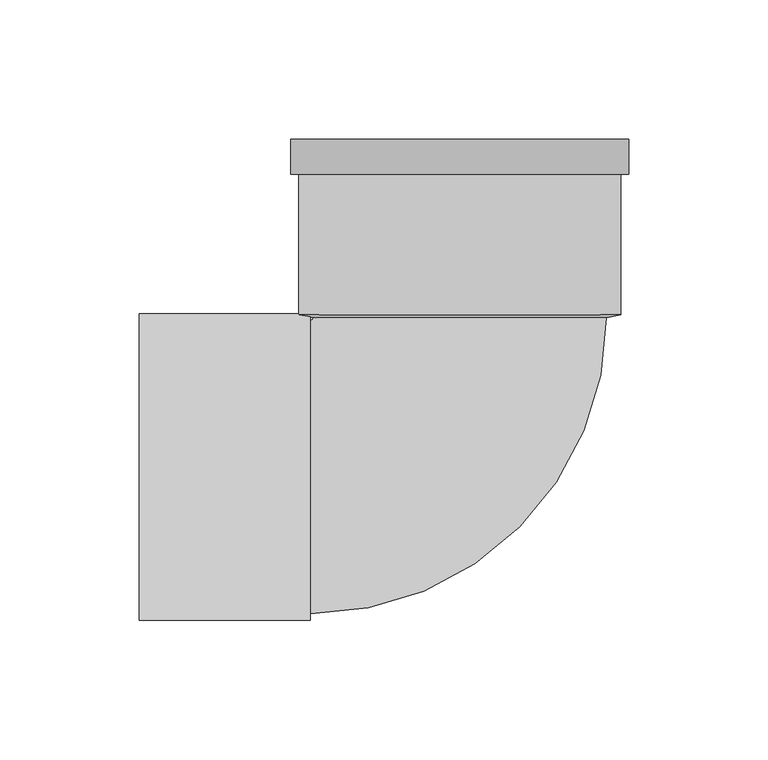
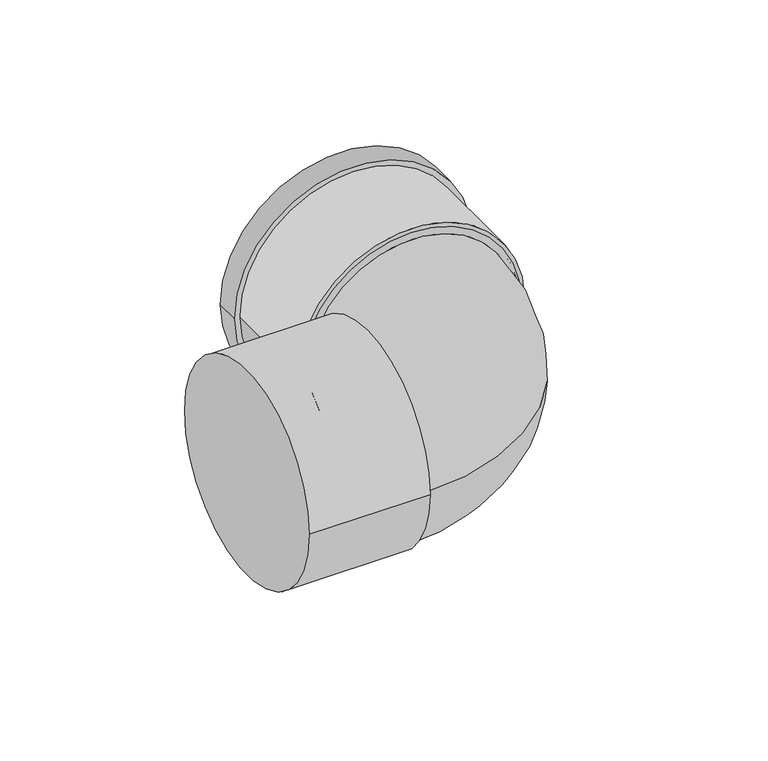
"""IFC4 building model written with IfcOpenShell, lengths in millimetres: pipe fitting geometry, Superdrain HT bend : Superdrain HT Bend."""

from ifc_helpers import new_model, si_unit, point, frame, origin, origin_2d, place, context, project, spatial, polyline, circle_curve, ellipse_curve, trimmed, segment, composite_curve, outline, extrude, source, transform, mapped, element, save
from ifc_brep_helpers import plane_surface, revolved_surface, advanced_brep


def pipe_fitting_0a0cbaeb(model_context):
    return source(origin(), model_context, "Body", "SolidModel", [
        advanced_brep(
        [(52.6, 53.6, 0.0), (-52.6, 53.6, 0.0), (-53.6, -52.6, 0.0), (-53.6, 52.6, 0.0)],
        [
            (0, 1, circle_curve(frame((0.0, 53.6, 0.0), z_axis=(0.0, 1.0, 0.0), x_axis=(-1.0, 0.0, 0.0)), 52.6)),
            (1, 0, circle_curve(frame((0.0, 53.6, 0.0), z_axis=(0.0, 1.0, 0.0), x_axis=(-1.0, 0.0, 0.0)), 52.6)),
            (2, 3, circle_curve(frame((-53.6, 0.0, 0.0), z_axis=(-1.0, 0.0, 0.0), x_axis=(0.0, 1.0, 0.0)), 52.6)),
            (3, 2, circle_curve(frame((-53.6, 0.0, 0.0), z_axis=(-1.0, 0.0, 0.0), x_axis=(0.0, 1.0, 0.0)), 52.6)),
            (3, 1, circle_curve(frame((-53.6, 53.6, 0.0), z_axis=(0.0, 0.0, 1.0), x_axis=(1.0, 0.0, 0.0)), 1.0)),
            (0, 2, circle_curve(frame((-53.6, 53.6, 0.0), z_axis=(0.0, 0.0, -1.0), x_axis=(1.0, 0.0, 0.0)), 106.2)),
        ],
        [
            plane_surface(frame((0.0, 53.6, 0.0), z_axis=(0.0, 1.0, 0.0), x_axis=(0.0, 0.0, -1.0))),
            plane_surface(frame((-53.6, 0.0, 0.0), z_axis=(-1.0, 0.0, 0.0), x_axis=(0.0, 0.0, -1.0))),
            revolved_surface(trimmed(ellipse_curve(frame((0.0, 53.6, 0.0), z_axis=(0.0, -1.0, 0.0), x_axis=(-1.0, 0.0, 0.0)), 52.6, 52.6), [point((-52.6, 53.6, 0.0))], [point((52.6, 53.6, 0.0))], True, "CARTESIAN"), (-53.6, 53.6, 0.0), (0.0, 0.0, 1.0)),
            revolved_surface(trimmed(ellipse_curve(frame((0.0, 53.6, 0.0), z_axis=(0.0, -1.0, 0.0), x_axis=(-1.0, 0.0, 0.0)), 52.6, 52.6), [point((52.6, 53.6, 0.0))], [point((-52.6, 53.6, 0.0))], True, "CARTESIAN"), (-53.6, 53.6, 0.0), (0.0, 0.0, 1.0)),
        ],
        [
            (0, [[1, 2]]),
            (1, [[3, 4]]),
            (2, [[-4, 5, -1, 6]]),
            (3, [[-3, -6, -2, -5]]),
        ],
    ),
        extrude(outline(composite_curve([segment(trimmed(circle_curve(origin_2d(), 57.75), [point((0.0, 57.75))], [point((0.0, -57.75))], False, "CARTESIAN"), True, "CONTINUOUS"), segment(trimmed(circle_curve(origin_2d(), 57.75), [point((0.0, -57.75))], [point((0.0, 57.75))], False, "CARTESIAN"), True, "CONTINUOUS")], self_intersect=False), holes=[composite_curve([segment(trimmed(circle_curve(origin_2d(), 55.0), [point((0.0, 55.0))], [point((0.0, -55.0))], True, "CARTESIAN"), True, "CONTINUOUS"), segment(trimmed(circle_curve(origin_2d(), 55.0), [point((0.0, -55.0))], [point((0.0, 55.0))], True, "CARTESIAN"), True, "CONTINUOUS")], self_intersect=False)]), frame((0.0, 54.6, 0.0), z_axis=(0.0, 1.0, 0.0), x_axis=(0.0, 0.0, 1.0)), (0.0, 0.0, 1.0), 63.0),
        extrude(outline(composite_curve([segment(trimmed(circle_curve(origin_2d(), 60.6375), [point((0.0, -60.6375))], [point((0.0, 60.6375))], False, "CARTESIAN"), True, "CONTINUOUS"), segment(trimmed(circle_curve(origin_2d(), 60.6375), [point((0.0, 60.6375))], [point((0.0, -60.6375))], False, "CARTESIAN"), True, "CONTINUOUS")], self_intersect=False), holes=[composite_curve([segment(trimmed(circle_curve(origin_2d(), 55.0), [point((0.0, -55.0))], [point((0.0, 55.0))], True, "CARTESIAN"), True, "CONTINUOUS"), segment(trimmed(circle_curve(origin_2d(), 55.0), [point((0.0, 55.0))], [point((0.0, -55.0))], True, "CARTESIAN"), True, "CONTINUOUS")], self_intersect=False)]), frame((0.0, 105.0, 0.0), z_axis=(0.0, 1.0, 0.0), x_axis=(0.0, 0.0, 1.0)), (0.0, 0.0, 1.0), 12.6),
        advanced_brep(
        [(57.75, 54.6, 0.0), (-57.75, 54.6, 0.0), (52.6, 53.6, 0.0), (-52.6, 53.6, 0.0)],
        [
            (0, 1, circle_curve(frame((0.0, 54.6, 0.0), z_axis=(0.0, 1.0, 0.0), x_axis=(1.0, 0.0, 0.0)), 57.75)),
            (1, 0, circle_curve(frame((0.0, 54.6, 0.0), z_axis=(0.0, 1.0, 0.0), x_axis=(-1.0, 0.0, 0.0)), 57.75)),
            (2, 3, circle_curve(frame((0.0, 53.6, 0.0), z_axis=(0.0, -1.0, 0.0), x_axis=(-1.0, 0.0, 0.0)), 52.6)),
            (3, 2, circle_curve(frame((0.0, 53.6, 0.0), z_axis=(0.0, -1.0, 0.0), x_axis=(1.0, 0.0, 0.0)), 52.6)),
            (3, 1),
            (0, 2),
        ],
        [
            plane_surface(frame((0.0, 54.6, 0.0), z_axis=(0.0, 1.0, 0.0), x_axis=(0.0, 0.0, -1.0))),
            plane_surface(frame((0.0, 53.6, 0.0), z_axis=(0.0, -1.0, 0.0), x_axis=(0.0, 0.0, -1.0))),
            revolved_surface(polyline([(-52.599999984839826, 53.6, 0.0), (-57.75, 54.6, 0.0)]), (0.0, 43.3864078, 0.0), (0.0, 1.0, 0.0)),
            revolved_surface(polyline([(52.599999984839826, 53.6, 0.0), (57.75, 54.6, 0.0)]), (0.0, 43.3864078, 0.0), (0.0, 1.0, 0.0)),
        ],
        [
            (0, [[1, 2]]),
            (1, [[3, 4]]),
            (2, [[-4, 5, -1, 6]]),
            (3, [[-3, -6, -2, -5]]),
        ],
    ),
        extrude(outline(composite_curve([segment(trimmed(circle_curve(origin_2d(), 55.0), [point((-55.0, 0.0))], [point((55.0, 0.0))], False, "CARTESIAN"), True, "CONTINUOUS"), segment(trimmed(circle_curve(origin_2d(), 55.0), [point((55.0, 0.0))], [point((-55.0, 0.0))], False, "CARTESIAN"), True, "CONTINUOUS")], self_intersect=False)), frame((-115.0, 0.0, 0.0), z_axis=(1.0, 0.0, 0.0), x_axis=(0.0, 1.0, 0.0)), (0.0, 0.0, 1.0), 61.4),
    ])


if __name__ == "__main__":
    model = new_model("IFC4")
    model_context = context("Model", 3, world=origin())
    ifc_project = project(units=[si_unit("LENGTHUNIT", "METRE", prefix="MILLI")], contexts=[model_context])
    site = spatial("IfcSite", under=ifc_project)
    building = spatial("IfcBuilding", under=site)
    placement = place(None, origin())
    pipe_fitting_shape = pipe_fitting_0a0cbaeb(model_context)
    element("IfcPipeFitting", 1, ObjectType="Superdrain HT bend : Superdrain HT Bend", at=placement, inside=building, context=model_context, shape_type="MappedRepresentation", body=[
        mapped(pipe_fitting_shape, transform((0.0, 0.0, 0.0), x_axis=(1.0, 0.0, 0.0), y_axis=(0.0, 1.0, 0.0), z_axis=(0.0, 0.0, 1.0))),
    ])
    save(model, "model.ifc")
